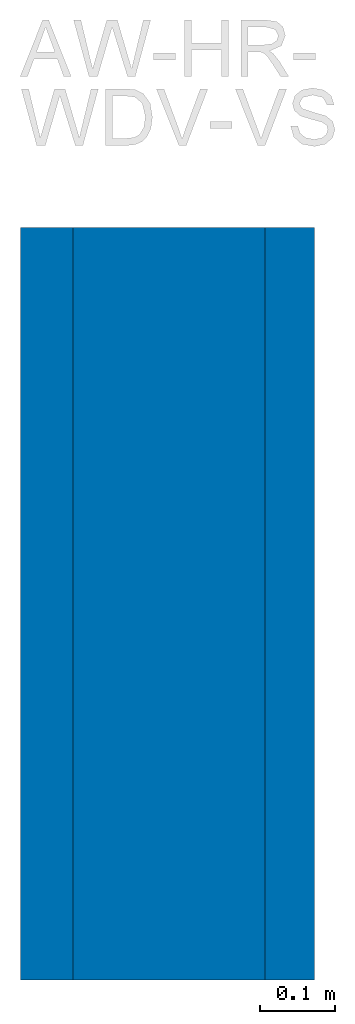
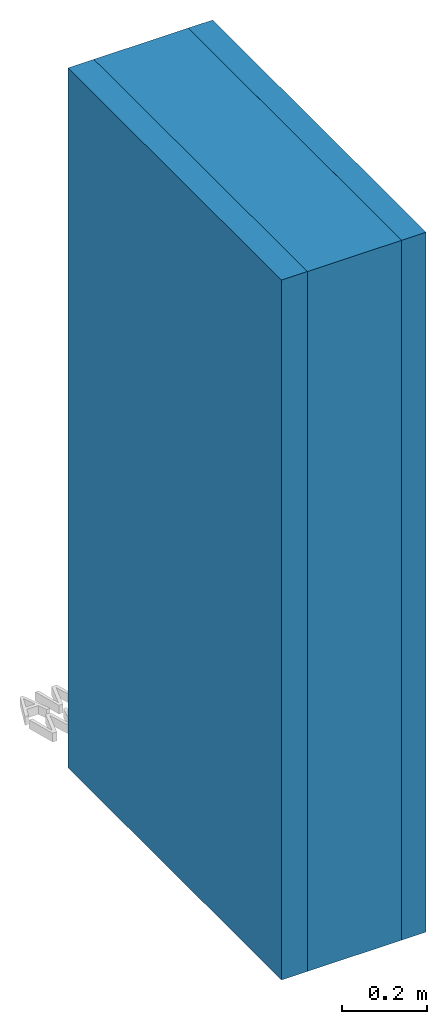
# Not in any storey, part 1 of 2: 3 walls, 1 element without a shape of its own.
"""IFC4 model written with IfcOpenShell, lengths in metres."""

from ifc_helpers import new_model, entity, si_unit, converted_unit, derived_unit, direction, frame, origin, place, context, subcontext, project, spatial, indexed_curve, outline, extrude, material, constituent, constituent_set, type_object, element, aggregate, save


model = new_model("IFC4")

# Units and contexts
model_context = context("Model", 3, precision=1e-05, world=origin(), true_north=direction((6.123031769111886e-17, 1.0)))
body_context = subcontext(model_context, "Body", "Model", "MODEL_VIEW")
ifc_project = project(units=[si_unit("LENGTHUNIT", "METRE"), si_unit("AREAUNIT", "SQUARE_METRE"), si_unit("VOLUMEUNIT", "CUBIC_METRE"), converted_unit("PLANEANGLEUNIT", "DEGREE", entity("IfcRatioMeasure", 0.017453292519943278), si_unit("PLANEANGLEUNIT", "RADIAN"), dimensions=[0, 0, 0, 0, 0, 0, 0]), si_unit("MASSUNIT", "GRAM", prefix="KILO"), derived_unit("MASSDENSITYUNIT", [(si_unit("MASSUNIT", "GRAM", prefix="KILO"), 1), (si_unit("LENGTHUNIT", "METRE"), -3)]), derived_unit("IONCONCENTRATIONUNIT", [(si_unit("MASSUNIT", "GRAM", prefix="KILO"), 1), (si_unit("LENGTHUNIT", "METRE"), -3)]), derived_unit("MOMENTOFINERTIAUNIT", [(si_unit("LENGTHUNIT", "METRE"), 4)]), si_unit("TIMEUNIT", "SECOND"), si_unit("FREQUENCYUNIT", "HERTZ"), si_unit("THERMODYNAMICTEMPERATUREUNIT", "DEGREE_CELSIUS"), derived_unit("THERMALTRANSMITTANCEUNIT", [(si_unit("MASSUNIT", "GRAM", prefix="KILO"), 1), (si_unit("THERMODYNAMICTEMPERATUREUNIT", "KELVIN"), -1), (si_unit("TIMEUNIT", "SECOND"), -3)]), derived_unit("THERMALCONDUCTANCEUNIT", [(si_unit("MASSUNIT", "GRAM", prefix="KILO"), 1), (si_unit("THERMODYNAMICTEMPERATUREUNIT", "KELVIN"), -1), (si_unit("TIMEUNIT", "SECOND"), -3), (si_unit("LENGTHUNIT", "METRE"), 1)]), derived_unit("VOLUMETRICFLOWRATEUNIT", [(si_unit("LENGTHUNIT", "METRE"), 3), (si_unit("TIMEUNIT", "SECOND"), -1)]), derived_unit("MASSFLOWRATEUNIT", [(si_unit("MASSUNIT", "GRAM", prefix="KILO"), 1), (si_unit("TIMEUNIT", "SECOND"), -1)]), derived_unit("ROTATIONALFREQUENCYUNIT", [(si_unit("TIMEUNIT", "SECOND"), -1)]), si_unit("ELECTRICCURRENTUNIT", "AMPERE"), si_unit("ELECTRICVOLTAGEUNIT", "VOLT"), si_unit("POWERUNIT", "WATT"), si_unit("FORCEUNIT", "NEWTON", prefix="KILO"), si_unit("ILLUMINANCEUNIT", "LUX"), si_unit("LUMINOUSFLUXUNIT", "LUMEN"), si_unit("LUMINOUSINTENSITYUNIT", "CANDELA"), derived_unit("USERDEFINED", [(si_unit("MASSUNIT", "GRAM", prefix="KILO"), -1), (si_unit("LENGTHUNIT", "METRE"), -2), (si_unit("TIMEUNIT", "SECOND"), 3), (si_unit("LUMINOUSFLUXUNIT", "LUMEN"), 1)]), derived_unit("USERDEFINED", [(si_unit("MASSUNIT", "GRAM", prefix="KILO"), 1), (si_unit("TIMEUNIT", "SECOND"), -3), (si_unit("LENGTHUNIT", "METRE"), 3), (si_unit("ELECTRICCURRENTUNIT", "AMPERE"), -2)]), derived_unit("SOUNDPOWERUNIT", [(si_unit("MASSUNIT", "GRAM", prefix="KILO"), 1), (si_unit("TIMEUNIT", "SECOND"), -3), (si_unit("LENGTHUNIT", "METRE"), 2)]), derived_unit("SOUNDPRESSUREUNIT", [(si_unit("MASSUNIT", "GRAM", prefix="KILO"), 1), (si_unit("LENGTHUNIT", "METRE"), -1), (si_unit("TIMEUNIT", "SECOND"), -2)]), derived_unit("LINEARVELOCITYUNIT", [(si_unit("LENGTHUNIT", "METRE"), 1), (si_unit("TIMEUNIT", "SECOND"), -1)]), si_unit("PRESSUREUNIT", "PASCAL"), derived_unit("USERDEFINED", [(si_unit("MASSUNIT", "GRAM", prefix="KILO"), 1), (si_unit("LENGTHUNIT", "METRE"), -2), (si_unit("TIMEUNIT", "SECOND"), -2)]), derived_unit("LINEARFORCEUNIT", [(si_unit("MASSUNIT", "GRAM", prefix="KILO"), 1), (si_unit("TIMEUNIT", "SECOND"), -2)]), derived_unit("PLANARFORCEUNIT", [(si_unit("MASSUNIT", "GRAM", prefix="KILO"), 1), (si_unit("LENGTHUNIT", "METRE"), -1), (si_unit("TIMEUNIT", "SECOND"), -2)]), derived_unit("SPECIFICHEATCAPACITYUNIT", [(si_unit("THERMODYNAMICTEMPERATUREUNIT", "KELVIN"), -1), (si_unit("LENGTHUNIT", "METRE"), 2), (si_unit("TIMEUNIT", "SECOND"), -2)]), derived_unit("HEATINGVALUEUNIT", [(si_unit("LENGTHUNIT", "METRE"), 2), (si_unit("TIMEUNIT", "SECOND"), -2)]), derived_unit("VAPORPERMEABILITYUNIT", [(si_unit("LENGTHUNIT", "METRE"), -1), (si_unit("TIMEUNIT", "SECOND"), 1)]), derived_unit("DYNAMICVISCOSITYUNIT", [(si_unit("MASSUNIT", "GRAM", prefix="KILO"), 1), (si_unit("TIMEUNIT", "SECOND"), -1), (si_unit("LENGTHUNIT", "METRE"), -1)]), derived_unit("THERMALEXPANSIONCOEFFICIENTUNIT", [(si_unit("THERMODYNAMICTEMPERATUREUNIT", "KELVIN"), -1)]), derived_unit("MODULUSOFELASTICITYUNIT", [(si_unit("MASSUNIT", "GRAM", prefix="KILO"), 1), (si_unit("LENGTHUNIT", "METRE"), -1), (si_unit("TIMEUNIT", "SECOND"), -2)]), derived_unit("ISOTHERMALMOISTURECAPACITYUNIT", [(si_unit("LENGTHUNIT", "METRE"), 3), (si_unit("MASSUNIT", "GRAM", prefix="KILO"), -1)]), derived_unit("MOISTUREDIFFUSIVITYUNIT", [(si_unit("TIMEUNIT", "SECOND"), -1), (si_unit("LENGTHUNIT", "METRE"), 2)])], contexts=[model_context])

# Site
site_placement = place(None, origin())
site = spatial("IfcSite", under=ifc_project, at=site_placement, Name="Default", CompositionType="ELEMENT")

# Assembly, walls
assembly_placement = place(site_placement, origin())
assembly = element("IfcElementAssembly", 1, at=assembly_placement, inside=site, Name="Wände Baugruppe:fbimSg_Wall_bc_WOD_vis_at_NTR_natuREbuilt_AW-HR-WDV-VS_GK3_39cm", ObjectType="Wände Baugruppe:fbimSg_Wall_bc_WOD_vis_at_NTR_natuREbuilt_AW-HR-WDV-VS_GK3_39cm", AssemblyPlace="NOTDEFINED", PredefinedType="USERDEFINED")
ifc_material_1 = material(Name="fbim_14153515_AT_001_Silikatputz_KP_1.5mm")
ifc_constituent_1 = constituent(ifc_material_1, Name="fbim_14153515_AT_001_Silikatputz_KP_1.5mm")
ifc_material_2 = material(Name="fbim_14100530_AT_Holzfaserdaemmung")
ifc_constituent_2 = constituent(ifc_material_2, Name="fbim_14100530_AT_Holzfaserdaemmung")
ifc_constituent_set_1 = constituent_set(constituents=[ifc_constituent_1, ifc_constituent_2], Name="Basiswand:fbimSg_Wall_dp_INS_vis_at_NTR_natuREbuilt_AWRv-gk_GK3_a_6cm")
wall_type_1 = type_object("IfcWallType", Name="Basiswand:fbimSg_Wall_dp_INS_vis_at_NTR_natuREbuilt_AWRv-gk_GK3_a_6cm", PredefinedType="STANDARD", material=ifc_constituent_set_1)
wall_1_placement = place(assembly_placement, frame((4.076668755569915, 47.654349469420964, 0.0), z_axis=(0.0, 0.0, 1.0), x_axis=(0.0, -1.0, 0.0)))
wall_1 = element("IfcWall", 2, at=wall_1_placement, type_object=wall_type_1, material=ifc_constituent_set_1, Name="Basiswand:fbimSg_Wall_dp_INS_vis_at_NTR_natuREbuilt_AWRv-gk_GK3_a_6cm", ObjectType="Basiswand:fbimSg_Wall_dp_INS_vis_at_NTR_natuREbuilt_AWRv-gk_GK3_a_6cm", PredefinedType="NOTDEFINED", context=body_context, shape_type="SweptSolid", body=[
    extrude(outline(indexed_curve([(-0.03000000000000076, -0.49999999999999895), (0.029999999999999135, -0.49999999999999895), (0.03000000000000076, 0.49999999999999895), (-0.029999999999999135, 0.49999999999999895), (-0.03000000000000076, -0.49999999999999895)], self_intersect=False)), frame((0.49999999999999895, 0.005000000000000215, 0.0), z_axis=(0.0, 0.0, 1.0), x_axis=(0.0, -1.0, 0.0)), (0.0, 0.0, 1.0), 1.9999999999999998),
    extrude(outline(indexed_curve([(-0.0050000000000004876, -0.49999999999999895), (0.004999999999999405, -0.49999999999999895), (0.005000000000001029, 0.49999999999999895), (-0.004999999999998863, 0.49999999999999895), (-0.0050000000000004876, -0.49999999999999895)], self_intersect=False)), frame((0.49999999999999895, -0.029999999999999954, 0.0), z_axis=(0.0, 0.0, 1.0), x_axis=(0.0, 1.0, 0.0)), (0.0, 0.0, 1.0), 1.9999999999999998),
])
ifc_material_3 = material(Name="fbim_14100500_at_NTR_Zellulose-Einblasdaemmung")
ifc_constituent_3 = constituent(ifc_material_3, Name="fbim_14100500_at_NTR_Zellulose-Einblasdaemmung")
ifc_material_4 = material(Name="fbim_12401520_AT_OSB")
ifc_constituent_4 = constituent(ifc_material_4, Name="fbim_12401520_AT_OSB")
ifc_constituent_set_2 = constituent_set(constituents=[ifc_constituent_3, ifc_constituent_4], Name="Basiswand:fbimSg_Wall_sb_WOD_vis_at_NTR_natuREbuilt_AWRv-gk_GK3_k_24cm")
wall_type_2 = type_object("IfcWallType", Name="Basiswand:fbimSg_Wall_sb_WOD_vis_at_NTR_natuREbuilt_AWRv-gk_GK3_k_24cm", PredefinedType="STANDARD", material=ifc_constituent_set_2)
wall_2_placement = place(assembly_placement, frame((4.239168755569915, 47.654349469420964, 0.0), z_axis=(0.0, 0.0, 1.0), x_axis=(0.0, -1.0, 0.0)))
wall_2 = element("IfcWall", 3, at=wall_2_placement, type_object=wall_type_2, material=ifc_constituent_set_2, Name="Basiswand:fbimSg_Wall_sb_WOD_vis_at_NTR_natuREbuilt_AWRv-gk_GK3_k_24cm", ObjectType="Basiswand:fbimSg_Wall_sb_WOD_vis_at_NTR_natuREbuilt_AWRv-gk_GK3_k_24cm", PredefinedType="NOTDEFINED", context=body_context, shape_type="SweptSolid", body=[
    extrude(outline(indexed_curve([(-0.007500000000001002, -0.49999999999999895), (0.007499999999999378, -0.49999999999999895), (0.007500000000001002, 0.49999999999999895), (-0.007499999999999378, 0.49999999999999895), (-0.007500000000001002, -0.49999999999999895)], self_intersect=False)), frame((0.49999999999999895, 0.12000000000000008, 0.0), z_axis=(0.0, 0.0, 1.0), x_axis=(0.0, -1.0, 0.0)), (0.0, 0.0, 1.0), 1.9999999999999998),
    extrude(outline(indexed_curve([(-0.12000000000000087, -0.49999999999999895), (0.1199999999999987, -0.49999999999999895), (0.12000000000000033, 0.49999999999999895), (-0.11999999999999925, 0.49999999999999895), (-0.12000000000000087, -0.49999999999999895)], self_intersect=False)), frame((0.49999999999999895, -0.0074999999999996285, 0.0), z_axis=(0.0, 0.0, 1.0), x_axis=(0.0, 1.0, 0.0)), (0.0, 0.0, 1.0), 1.9999999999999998),
])
ifc_material_5 = material(Name="fbim_16101505_AT_Gipsfaserplatte", Category="Gipsputz")
ifc_constituent_5 = constituent(ifc_material_5, Name="fbim_16101505_AT_Gipsfaserplatte", Category="Gipsputz")
ifc_material_6 = material(Name="fbim_14100510_at_NTR_Hanffaserdaemmung")
ifc_constituent_6 = constituent(ifc_material_6, Name="fbim_14100510_at_NTR_Hanffaserdaemmung")
ifc_constituent_7 = constituent(ifc_material_5, Name="fbim_16101505_AT_Gipsfaserplatte (2)", Category="Gipsputz")
ifc_material_7 = material(Name="fbim_14153005_AT_001_KlebeArmierspachtel_min")
ifc_constituent_8 = constituent(ifc_material_7, Name="fbim_14153005_AT_001_KlebeArmierspachtel_min")
ifc_constituent_set_3 = constituent_set(constituents=[ifc_constituent_5, ifc_constituent_6, ifc_constituent_7, ifc_constituent_8], Name="Basiswand:fbimSg_Wall_dp_DRW_vis_at_NTR_natuREbuilt_AWRv-gk_GK3_i_2,5cm")
wall_type_3 = type_object("IfcWallType", Name="Basiswand:fbimSg_Wall_dp_DRW_vis_at_NTR_natuREbuilt_AWRv-gk_GK3_i_2,5cm", PredefinedType="STANDARD", material=ifc_constituent_set_3)
wall_3_placement = place(assembly_placement, frame((4.399668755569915, 47.654349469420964, 0.0), z_axis=(0.0, 0.0, 1.0), x_axis=(0.0, -1.0, 0.0)))
wall_3 = element("IfcWall", 4, at=wall_3_placement, type_object=wall_type_3, material=ifc_constituent_set_3, Name="Basiswand:fbimSg_Wall_dp_DRW_vis_at_NTR_natuREbuilt_AWRv-gk_GK3_i_2,5cm", ObjectType="Basiswand:fbimSg_Wall_dp_DRW_vis_at_NTR_natuREbuilt_AWRv-gk_GK3_i_2,5cm", PredefinedType="NOTDEFINED", context=body_context, shape_type="SweptSolid", body=[
    extrude(outline(indexed_curve([(-0.0005000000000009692, -0.49999999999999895), (0.0004999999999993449, -0.49999999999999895), (0.0005000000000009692, 0.49999999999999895), (-0.0004999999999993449, 0.49999999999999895), (-0.0005000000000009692, -0.49999999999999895)], self_intersect=False)), frame((0.49999999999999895, 0.032499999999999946, 0.0), z_axis=(0.0, 0.0, 1.0), x_axis=(0.0, -1.0, 0.0)), (0.0, 0.0, 1.0), 1.9999999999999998),
    extrude(outline(indexed_curve([(-0.49999999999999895, -0.0062499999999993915), (0.49999999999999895, -0.0062499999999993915), (0.49999999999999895, 0.006250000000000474), (-0.49999999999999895, 0.006250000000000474), (-0.49999999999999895, -0.0062499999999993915)], self_intersect=False)), frame((0.49999999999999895, 0.02574999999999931, 0.0)), (0.0, 0.0, 1.0), 1.9999999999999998),
    extrude(outline(indexed_curve([(-0.49999999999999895, -0.020000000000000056), (0.49999999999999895, -0.020000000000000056), (0.49999999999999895, 0.020000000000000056), (-0.49999999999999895, 0.020000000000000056), (-0.49999999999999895, -0.020000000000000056)], self_intersect=False)), frame((0.49999999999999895, -0.000500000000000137, 0.0)), (0.0, 0.0, 1.0), 1.9999999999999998),
    extrude(outline(indexed_curve([(-0.006250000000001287, -0.49999999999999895), (0.00624999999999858, -0.49999999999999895), (0.006250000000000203, 0.49999999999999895), (-0.006249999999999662, 0.49999999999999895), (-0.006250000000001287, -0.49999999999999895)], self_intersect=False)), frame((0.49999999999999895, -0.026749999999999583, 0.0), z_axis=(0.0, 0.0, 1.0), x_axis=(0.0, 1.0, 0.0)), (0.0, 0.0, 1.0), 1.9999999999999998),
])
aggregate(assembly, [wall_1, wall_2, wall_3])

save(model, "model.ifc")
